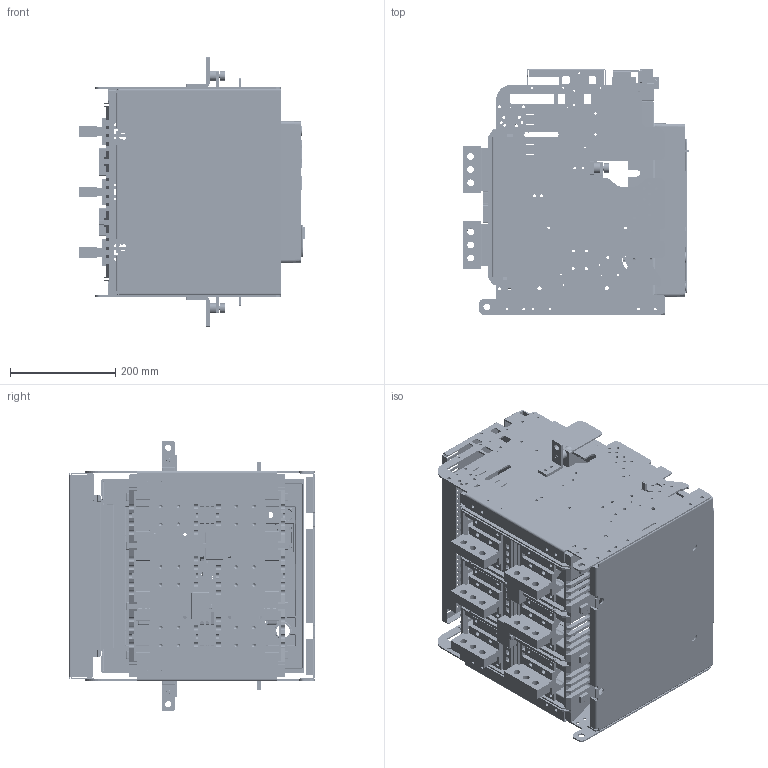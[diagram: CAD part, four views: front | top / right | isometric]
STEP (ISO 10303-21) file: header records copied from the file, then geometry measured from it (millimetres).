
FILE_DESCRIPTION((''),'2;1');
FILE_NAME('HG_12_B323V_ASM_ASM','2019-03-27T',('HHI'),(''),'PRO/ENGINEER BY PARAMETRIC TECHNOLOGY CORPORATION, 2012453','PRO/ENGINEER BY PARAMETRIC TECHNOLOGY CORPORATION, 2012453','');
FILE_SCHEMA(('CONFIG_CONTROL_DESIGN'));
Products named in the file (40): PRT0095; PRT0096; ASM0029_ASM; PRT0097; PRT0098; PRT0099; ASM0030_ASM; PRT0100; PRT0101; PRT0102; PRT0103; PRT0104; PRT0105; PRT0107; PRT0108; PRT0109; PRT0110; ASM0032_ASM; PRT0111; PRT0112; PRT0113; ASM0033_ASM; PRT0116; ASM0031_ASM; PRT0117; PRT0118; PRT0119; PRT0120; PRT0121; ASM0034_ASM; PRT0122; PRT0123; FIX_BLOCK_CRADLE_6; BOLT_5; ASM0035_ASM; B323V_ASM_7_ASM; HG_FRONT_COVER_40; 4AT-06477S03; 4AT-06477S04; HG_12_B323V_ASM_ASM
Assembly tree (49 placements, depth 5):
  HG_12_B323V_ASM_ASM
    B323V_ASM_7_ASM
      ASM0029_ASM
        PRT0095
        PRT0096
      PRT0097
      ASM0030_ASM
        PRT0098
        PRT0099
      PRT0100
      PRT0101
      PRT0102
      PRT0103  x6
      PRT0104  x6
      ASM0031_ASM
        PRT0105
        ASM0032_ASM
          PRT0107
          PRT0108
          PRT0109
          PRT0110
        ASM0033_ASM
          PRT0111
          PRT0112
          PRT0113
        PRT0116
      PRT0117
      ASM0034_ASM
        PRT0118
        PRT0119
        PRT0120
        PRT0121
      ASM0035_ASM
        PRT0122
        PRT0123
        FIX_BLOCK_CRADLE_6
        BOLT_5
    HG_FRONT_COVER_40
    4AT-06477S03
    4AT-06477S04
Bounding box: 430.03 x 466.35 x 511 mm (x, y, z)
Volume: 5937776.1 mm3; surface area: 3425853 mm2
Topology: 41 solids, 41 shells, 14660 faces, 43011 edges, 28054 vertices
Faces by surface type: plane 10795, cylinder 3155, torus 235, extrusion 141, sphere 137, cone 116, bspline 81
Entity records: 469205 total; most frequent: CARTESIAN_POINT 89667, ORIENTED_EDGE 82114, DIRECTION 74361, EDGE_CURVE 41057, VECTOR 34341, LINE 34200, VERTEX_POINT 26774, AXIS2_PLACEMENT_3D 20010
